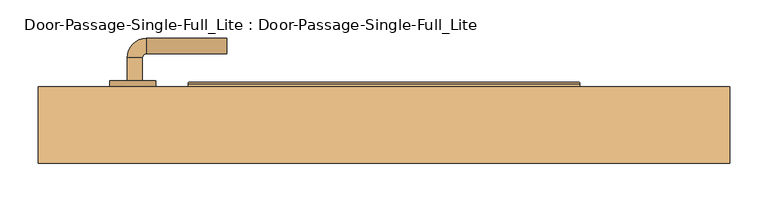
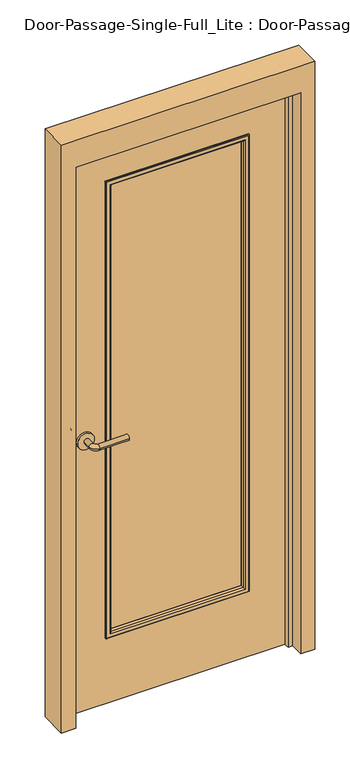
"""IFC4 building model written with IfcOpenShell, lengths in millimetres: door geometry, Door-Passage-Single-Full_Lite : Door-Passage-Single-Full_Lite."""

from ifc_helpers import new_model, si_unit, point, frame, frame_2d, origin, place, context, project, spatial, polyline, circle_curve, ellipse_curve, trimmed, segment, composite_curve, outline, extrude, faceted_brep, source, transform, mapped, element, save
from ifc_brep_helpers import plane_surface, cylinder_surface, revolved_surface, advanced_brep


def door_passage_single_full_lite_door_passage_single_full_lite_b622ab86(model_context):
    return source(origin(), model_context, "Body", "SolidModel", [
        advanced_brep(
        [(-334.990625, -12.05, 1016.0), (-314.990625, -12.05, 1016.0), (-314.990625, -42.05, 1016.0), (-334.990625, -42.05, 1016.0), (-309.990625, -47.05, 1016.0), (-309.990625, -67.05, 1016.0), (-204.990625, -67.05, 1016.0), (-204.990625, -47.05, 1016.0)],
        [
            (0, 1, circle_curve(frame((-324.990625, -12.05, 1016.0), z_axis=(0.0, 1.0, 0.0), x_axis=(1.0, 0.0, 0.0)), 10.0)),
            (1, 0, circle_curve(frame((-324.990625, -12.05, 1016.0), z_axis=(0.0, 1.0, 0.0), x_axis=(1.0, 0.0, 0.0)), 10.0)),
            (1, 2),
            (2, 3, circle_curve(frame((-324.990625, -42.05, 1016.0), z_axis=(0.0, 1.0, 0.0), x_axis=(1.0, 0.0, 0.0)), 10.0)),
            (3, 0),
            (3, 2, circle_curve(frame((-324.990625, -42.05, 1016.0), z_axis=(0.0, 1.0, 0.0), x_axis=(1.0, 0.0, 0.0)), 10.0)),
            (4, 5, circle_curve(frame((-309.990625, -57.05, 1016.0), z_axis=(-1.0, 0.0, 0.0), x_axis=(0.0, 1.0, 0.0)), 10.0)),
            (5, 3, circle_curve(frame((-309.990625, -42.05, 1016.0), z_axis=(0.0, 0.0, -1.0), x_axis=(-1.0, 0.0, 0.0)), 25.0)),
            (2, 4, circle_curve(frame((-309.990625, -42.05, 1016.0), z_axis=(0.0, 0.0, 1.0), x_axis=(-1.0, 0.0, 0.0)), 5.0)),
            (5, 4, circle_curve(frame((-309.990625, -57.05, 1016.0), z_axis=(-1.0, 0.0, 0.0), x_axis=(0.0, 1.0, 0.0)), 10.0)),
            (6, 7, circle_curve(frame((-204.990625, -57.05, 1016.0), z_axis=(1.0, 0.0, 0.0), x_axis=(0.0, 1.0, 0.0)), 10.0)),
            (7, 6, circle_curve(frame((-204.990625, -57.05, 1016.0), z_axis=(1.0, 0.0, 0.0), x_axis=(0.0, 1.0, 0.0)), 10.0)),
            (4, 7),
            (6, 5),
        ],
        [
            plane_surface(frame((-324.990625, -12.05, 1016.0), z_axis=(0.0, 1.0, 0.0), x_axis=(0.0, 0.0, 1.0))),
            cylinder_surface(frame((-324.990625, -12.05, 1016.0), z_axis=(0.0, 1.0, 0.0), x_axis=(1.0, 0.0, 0.0)), 10.0),
            revolved_surface(trimmed(ellipse_curve(frame((-324.990625, -42.05, 1016.0), z_axis=(0.0, -1.0, 0.0), x_axis=(1.0, 0.0, 0.0)), 10.0, 10.0), [point((-334.990625, -42.05, 1016.0))], [point((-314.990625, -42.05, 1016.0))], True, "CARTESIAN"), (-309.990625, -42.05, 1016.0), (0.0, 0.0, -1.0)),
            revolved_surface(trimmed(ellipse_curve(frame((-324.990625, -42.05, 1016.0), z_axis=(0.0, -1.0, 0.0), x_axis=(1.0, 0.0, 0.0)), 10.0, 10.0), [point((-314.990625, -42.05, 1016.0))], [point((-334.990625, -42.05, 1016.0))], True, "CARTESIAN"), (-309.990625, -42.05, 1016.0), (0.0, 0.0, -1.0)),
            plane_surface(frame((-204.990625, -57.05, 1016.0), z_axis=(1.0, 0.0, 0.0), x_axis=(0.0, 0.0, 1.0))),
            cylinder_surface(frame((-309.990625, -57.05, 1016.0), z_axis=(-1.0, 0.0, 0.0), x_axis=(0.0, 1.0, 0.0)), 10.0),
        ],
        [
            (0, [[1, 2]]),
            (1, [[3, 4, 5, -2]]),
            (1, [[-5, 6, -3, -1]]),
            (2, [[7, 8, -4, 9]]),
            (3, [[10, -9, -6, -8]]),
            (4, [[11, 12]]),
            (5, [[13, -11, 14, -7]]),
            (5, [[-14, -12, -13, -10]]),
        ],
    ),
        extrude(outline(composite_curve([segment(trimmed(circle_curve(frame_2d((1016.0, -327.490625)), 30.0), [point((1016.0, -357.490625))], [point((1016.0, -297.490625))], False, "CARTESIAN"), True, "CONTINUOUS"), segment(trimmed(circle_curve(frame_2d((1016.0, -327.490625)), 30.0), [point((1016.0, -297.490625))], [point((1016.0, -357.490625))], False, "CARTESIAN"), True, "CONTINUOUS")], self_intersect=False)), frame((0.0, -12.05, 0.0), z_axis=(0.0, 1.0, 0.0), x_axis=(0.0, 0.0, 1.0)), (0.0, 0.0, 1.0), 8.0),
        advanced_brep(
        [(-334.990625, 33.95, 1016.0), (-314.990625, 33.95, 1016.0), (-334.990625, 63.95, 1016.0), (-314.990625, 63.95, 1016.0), (-309.990625, 68.95, 1016.0), (-309.990625, 88.95, 1016.0), (-204.990625, 88.95, 1016.0), (-204.990625, 68.95, 1016.0)],
        [
            (0, 1, circle_curve(frame((-324.990625, 33.95, 1016.0), z_axis=(0.0, -1.0, 0.0), x_axis=(1.0, 0.0, 0.0)), 10.0)),
            (1, 0, circle_curve(frame((-324.990625, 33.95, 1016.0), z_axis=(0.0, -1.0, 0.0), x_axis=(1.0, 0.0, 0.0)), 10.0)),
            (0, 2),
            (2, 3, circle_curve(frame((-324.990625, 63.95, 1016.0), z_axis=(0.0, -1.0, 0.0), x_axis=(1.0, 0.0, 0.0)), 10.0)),
            (3, 1),
            (3, 2, circle_curve(frame((-324.990625, 63.95, 1016.0), z_axis=(0.0, -1.0, 0.0), x_axis=(1.0, 0.0, 0.0)), 10.0)),
            (4, 3, circle_curve(frame((-309.990625, 63.95, 1016.0), z_axis=(0.0, 0.0, 1.0), x_axis=(-1.0, 0.0, 0.0)), 5.0)),
            (2, 5, circle_curve(frame((-309.990625, 63.95, 1016.0), z_axis=(0.0, 0.0, -1.0), x_axis=(-1.0, 0.0, 0.0)), 25.0)),
            (5, 4, circle_curve(frame((-309.990625, 78.95, 1016.0), z_axis=(-1.0, 0.0, 0.0), x_axis=(0.0, -1.0, 0.0)), 10.0)),
            (4, 5, circle_curve(frame((-309.990625, 78.95, 1016.0), z_axis=(-1.0, 0.0, 0.0), x_axis=(0.0, -1.0, 0.0)), 10.0)),
            (6, 7, circle_curve(frame((-204.990625, 78.95, 1016.0), z_axis=(1.0, 0.0, 0.0), x_axis=(0.0, -1.0, 0.0)), 10.0)),
            (7, 6, circle_curve(frame((-204.990625, 78.95, 1016.0), z_axis=(1.0, 0.0, 0.0), x_axis=(0.0, -1.0, 0.0)), 10.0)),
            (5, 6),
            (7, 4),
        ],
        [
            plane_surface(frame((-324.990625, 33.95, 1016.0), z_axis=(0.0, -1.0, 0.0), x_axis=(0.0, 0.0, 1.0))),
            cylinder_surface(frame((-324.990625, 33.95, 1016.0), z_axis=(0.0, -1.0, 0.0), x_axis=(1.0, 0.0, 0.0)), 10.0),
            revolved_surface(trimmed(ellipse_curve(frame((-324.990625, 63.95, 1016.0), z_axis=(0.0, -1.0, 0.0), x_axis=(1.0, 0.0, 0.0)), 10.0, 10.0), [point((-334.990625, 63.95, 1016.0))], [point((-314.990625, 63.95, 1016.0))], True, "CARTESIAN"), (-309.990625, 63.95, 1016.0), (0.0, 0.0, -1.0)),
            revolved_surface(trimmed(ellipse_curve(frame((-324.990625, 63.95, 1016.0), z_axis=(0.0, -1.0, 0.0), x_axis=(1.0, 0.0, 0.0)), 10.0, 10.0), [point((-314.990625, 63.95, 1016.0))], [point((-334.990625, 63.95, 1016.0))], True, "CARTESIAN"), (-309.990625, 63.95, 1016.0), (0.0, 0.0, -1.0)),
            plane_surface(frame((-204.990625, 78.95, 1016.0), z_axis=(1.0, 0.0, 0.0), x_axis=(0.0, 0.0, 1.0))),
            cylinder_surface(frame((-309.990625, 78.95, 1016.0), z_axis=(-1.0, 0.0, 0.0), x_axis=(0.0, -1.0, 0.0)), 10.0),
        ],
        [
            (0, [[1, 2]]),
            (1, [[-1, 3, 4, 5]]),
            (1, [[-2, -5, 6, -3]]),
            (2, [[7, -4, 8, 9]]),
            (3, [[-8, -6, -7, 10]]),
            (4, [[11, 12]]),
            (5, [[-9, 13, -12, 14]]),
            (5, [[-10, -14, -11, -13]]),
        ],
    ),
        extrude(outline(composite_curve([segment(trimmed(circle_curve(frame_2d((1016.0, -327.490625)), 30.0), [point((1016.0, -357.490625))], [point((1016.0, -297.490625))], False, "CARTESIAN"), True, "CONTINUOUS"), segment(trimmed(circle_curve(frame_2d((1016.0, -327.490625)), 30.0), [point((1016.0, -297.490625))], [point((1016.0, -357.490625))], False, "CARTESIAN"), True, "CONTINUOUS")], self_intersect=False)), frame((0.0, 25.95, 0.0), z_axis=(0.0, 1.0, 0.0), x_axis=(0.0, 0.0, 1.0)), (0.0, 0.0, 1.0), 8.0),
        extrude(outline(polyline([(247.6, 7.775), (-247.6, 7.775), (-247.6, 14.125), (247.6, 14.125), (247.6, 7.775)])), frame((0.0, 0.0, 254.0), z_axis=(0.0, 0.0, 1.0), x_axis=(1.0, 0.0, 0.0)), (0.0, 0.0, 1.0), 1703.6),
        faceted_brep([(400.0, -8.8125, 0.0), (400.0, 25.95, 0.0), (450.8, 25.95, 0.0), (450.8, -74.05, 0.0), (400.0, -74.05, 0.0), (400.0, -24.8375, 0.0), (384.125, -24.8375, 0.0), (384.125, -8.8125, 0.0), (400.0, -8.8125, 2110.0), (400.0, 25.95, 2110.0), (-400.0, 25.95, 2110.0), (-400.0, 25.95, 0.0), (-450.8, 25.95, 0.0), (-450.8, 25.95, 2211.6), (450.8, 25.95, 2211.6), (450.8, -74.05, 2211.6), (-450.8, -74.05, 2211.6), (-450.8, -74.05, 0.0), (-400.0, -74.05, 0.0), (-400.0, -74.05, 2110.0), (400.0, -74.05, 2110.0), (400.0, -24.8375, 2110.0), (-400.0, -24.8375, 2110.0), (-400.0, -24.8375, 0.0), (-384.125, -24.8375, 0.0), (-384.125, -24.8375, 2094.125), (384.125, -24.8375, 2094.125), (384.125, -8.8125, 2094.125), (-384.125, -8.8125, 2094.125), (-384.125, -8.8125, 0.0), (-400.0, -8.8125, 0.0), (-400.0, -8.8125, 2110.0)], [[[0, 1, 2, 3, 4, 5, 6, 7]], [[1, 0, 8, 9]], [[2, 1, 9, 10, 11, 12, 13, 14]], [[3, 2, 14, 15]], [[4, 3, 15, 16, 17, 18, 19, 20]], [[5, 4, 20, 21]], [[6, 5, 21, 22, 23, 24, 25, 26]], [[7, 6, 26, 27]], [[0, 7, 27, 28, 29, 30, 31, 8]], [[9, 8, 31, 10]], [[20, 19, 22, 21]], [[26, 25, 28, 27]], [[12, 11, 30, 29, 24, 23, 18, 17]], [[11, 10, 31, 30]], [[13, 12, 17, 16]], [[19, 18, 23, 22]], [[25, 24, 29, 28]], [[15, 14, 13, 16]]]),
        extrude(outline(polyline([(2110.0, -400.0), (0.0, -400.0), (0.0, 400.0), (2110.0, 400.0), (2110.0, -400.0)]), holes=[polyline([(1957.6, -247.6), (1957.6, 247.6), (254.0, 247.6), (254.0, -247.6), (1957.6, -247.6)])]), frame((0.0, -4.05, 0.0), z_axis=(0.0, 1.0, 0.0), x_axis=(0.0, 0.0, 1.0)), (0.0, 0.0, 1.0), 30.0),
        advanced_brep(
        [(-247.6, 6.9, 1957.6), (-247.6, 25.95, 1957.6), (-247.6, 25.95, 254.0), (-247.6, 6.9, 254.0), (-235.6, 26.95, 1945.6), (-235.6, 6.9, 1945.6), (-235.6, 6.9, 266.0), (-235.6, 26.95, 266.0), (-240.6, 31.95, 1950.6), (-240.6, 31.95, 261.0), (-255.6, 29.95, 1965.6), (-253.6, 31.95, 1963.6), (-253.6, 31.95, 248.0), (-255.6, 29.95, 246.0), (-255.6, 25.95, 1965.6), (-255.6, 25.95, 246.0), (247.6, 25.95, 254.0), (247.6, 6.9, 254.0), (235.6, 6.9, 266.0), (235.6, 26.95, 266.0), (240.6, 31.95, 261.0), (253.6, 31.95, 248.0), (255.6, 29.95, 246.0), (255.6, 25.95, 246.0), (247.6, 25.95, 1957.6), (247.6, 6.9, 1957.6), (235.6, 6.9, 1945.6), (235.6, 26.95, 1945.6), (240.6, 31.95, 1950.6), (253.6, 31.95, 1963.6), (255.6, 29.95, 1965.6), (255.6, 25.95, 1965.6)],
        [
            (0, 1),
            (1, 2),
            (2, 3),
            (3, 0),
            (4, 5),
            (5, 6),
            (6, 7),
            (7, 4),
            (8, 4, ellipse_curve(frame((-240.6, 26.95, 1950.6), z_axis=(-0.7071067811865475, 0.0, -0.7071067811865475), x_axis=(-0.7071067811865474, 0.0, 0.7071067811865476)), 7.0710678, 5.0)),
            (7, 9, ellipse_curve(frame((-240.6, 26.95, 261.0), z_axis=(-0.7071067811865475, 0.0, 0.7071067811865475), x_axis=(0.7071067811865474, 0.0, 0.7071067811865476)), 7.0710678, 5.0)),
            (9, 8),
            (10, 11, ellipse_curve(frame((-253.6, 29.95, 1963.6), z_axis=(-0.7071067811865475, 0.0, -0.7071067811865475), x_axis=(-0.7071067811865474, 0.0, 0.7071067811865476)), 2.8284271, 2.0)),
            (11, 12),
            (12, 13, ellipse_curve(frame((-253.6, 29.95, 248.0), z_axis=(-0.7071067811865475, 0.0, 0.7071067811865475), x_axis=(0.7071067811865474, 0.0, 0.7071067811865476)), 2.8284271, 2.0)),
            (13, 10),
            (14, 10),
            (13, 15),
            (15, 14),
            (2, 16),
            (16, 17),
            (17, 3),
            (6, 18),
            (18, 19),
            (19, 7),
            (19, 20, ellipse_curve(frame((240.6, 26.95, 261.0), z_axis=(-0.7071067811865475, 0.0, -0.7071067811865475), x_axis=(-0.7071067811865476, 0.0, 0.7071067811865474)), 7.0710678, 5.0)),
            (20, 9),
            (12, 21),
            (21, 22, ellipse_curve(frame((253.6, 29.95, 248.0), z_axis=(-0.7071067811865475, 0.0, -0.7071067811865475), x_axis=(-0.7071067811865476, 0.0, 0.7071067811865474)), 2.8284271, 2.0)),
            (22, 13),
            (22, 23),
            (23, 15),
            (16, 24),
            (24, 25),
            (25, 17),
            (18, 26),
            (26, 27),
            (27, 19),
            (27, 28, ellipse_curve(frame((240.6, 26.95, 1950.6), z_axis=(0.7071067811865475, 0.0, -0.7071067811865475), x_axis=(-0.7071067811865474, 0.0, -0.7071067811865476)), 7.0710678, 5.0)),
            (28, 20),
            (21, 29),
            (29, 30, ellipse_curve(frame((253.6, 29.95, 1963.6), z_axis=(0.7071067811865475, 0.0, -0.7071067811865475), x_axis=(-0.7071067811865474, 0.0, -0.7071067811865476)), 2.8284271, 2.0)),
            (30, 22),
            (30, 31),
            (31, 23),
            (31, 14),
            (1, 24),
            (0, 25),
            (5, 26),
            (4, 27),
            (8, 28),
            (11, 29),
            (10, 30),
        ],
        [
            plane_surface(frame((-247.6, 25.95, 1957.6), z_axis=(-1.0, 0.0, 0.0), x_axis=(0.0, 0.0, -1.0))),
            plane_surface(frame((-235.6, 6.9, 1945.6), z_axis=(1.0, 0.0, 0.0), x_axis=(0.0, 0.0, -1.0))),
            cylinder_surface(frame((-240.6, 26.95, 1957.6), z_axis=(0.0, 0.0, 1.0), x_axis=(-1.0, 0.0, 0.0)), 5.0),
            cylinder_surface(frame((-253.6, 29.95, 1957.6), z_axis=(0.0, 0.0, 1.0), x_axis=(-1.0, 0.0, 0.0)), 2.0),
            plane_surface(frame((-255.6, 29.95, 1965.6), z_axis=(-1.0, 0.0, 0.0), x_axis=(0.0, 0.0, -1.0))),
            plane_surface(frame((-247.6, 25.95, 254.0), z_axis=(0.0, 0.0, -1.0), x_axis=(1.0, 0.0, 0.0))),
            plane_surface(frame((-235.6, 6.9, 266.0), z_axis=(0.0, 0.0, 1.0), x_axis=(1.0, 0.0, 0.0))),
            cylinder_surface(frame((-247.6, 26.95, 261.0), z_axis=(-1.0, 0.0, 0.0), x_axis=(0.0, 0.0, -1.0)), 5.0),
            cylinder_surface(frame((-247.6, 29.95, 248.0), z_axis=(-1.0, 0.0, 0.0), x_axis=(0.0, 0.0, -1.0)), 2.0),
            plane_surface(frame((-255.6, 29.95, 246.0), z_axis=(0.0, 0.0, -1.0), x_axis=(1.0, 0.0, 0.0))),
            plane_surface(frame((247.6, 25.95, 254.0), z_axis=(1.0, 0.0, 0.0), x_axis=(0.0, 0.0, 1.0))),
            plane_surface(frame((235.6, 6.9, 266.0), z_axis=(-1.0, 0.0, 0.0), x_axis=(0.0, 0.0, 1.0))),
            cylinder_surface(frame((240.6, 26.95, 254.0), z_axis=(0.0, 0.0, -1.0), x_axis=(1.0, 0.0, 0.0)), 5.0),
            cylinder_surface(frame((253.6, 29.95, 254.0), z_axis=(0.0, 0.0, -1.0), x_axis=(1.0, 0.0, 0.0)), 2.0),
            plane_surface(frame((255.6, 29.95, 246.0), z_axis=(1.0, 0.0, 0.0), x_axis=(0.0, 0.0, 1.0))),
            plane_surface(frame((255.6, 25.95, 1965.6), z_axis=(0.0, -1.0, 0.0), x_axis=(-1.0, 0.0, 0.0))),
            plane_surface(frame((247.6, 25.95, 1957.6), z_axis=(0.0, 0.0, 1.0), x_axis=(-1.0, 0.0, 0.0))),
            plane_surface(frame((247.6, 6.9, 1957.6), z_axis=(0.0, -1.0, 0.0), x_axis=(-1.0, 0.0, 0.0))),
            plane_surface(frame((235.6, 6.9, 1945.6), z_axis=(0.0, 0.0, -1.0), x_axis=(-1.0, 0.0, 0.0))),
            cylinder_surface(frame((247.6, 26.95, 1950.6), z_axis=(1.0, 0.0, 0.0), x_axis=(0.0, 0.0, 1.0)), 5.0),
            plane_surface(frame((240.6, 31.95, 1950.6), z_axis=(0.0, 1.0, 0.0), x_axis=(-1.0, 0.0, 0.0))),
            cylinder_surface(frame((247.6, 29.95, 1963.6), z_axis=(1.0, 0.0, 0.0), x_axis=(0.0, 0.0, 1.0)), 2.0),
            plane_surface(frame((255.6, 29.95, 1965.6), z_axis=(0.0, 0.0, 1.0), x_axis=(-1.0, 0.0, 0.0))),
        ],
        [
            (0, [[1, 2, 3, 4]]),
            (1, [[5, 6, 7, 8]]),
            (2, [[9, -8, 10, 11]]),
            (3, [[12, 13, 14, 15]]),
            (4, [[16, -15, 17, 18]]),
            (5, [[-3, 19, 20, 21]]),
            (6, [[-7, 22, 23, 24]]),
            (7, [[-10, -24, 25, 26]]),
            (8, [[-14, 27, 28, 29]]),
            (9, [[-17, -29, 30, 31]]),
            (10, [[-20, 32, 33, 34]]),
            (11, [[-23, 35, 36, 37]]),
            (12, [[-25, -37, 38, 39]]),
            (13, [[-28, 40, 41, 42]]),
            (14, [[-30, -42, 43, 44]]),
            (15, [[-31, -44, 45, -18], [46, -32, -19, -2]]),
            (16, [[-33, -46, -1, 47]]),
            (17, [[-21, -34, -47, -4], [48, -35, -22, -6]]),
            (18, [[-36, -48, -5, 49]]),
            (19, [[-38, -49, -9, 50]]),
            (20, [[51, -40, -27, -13], [-26, -39, -50, -11]]),
            (21, [[-41, -51, -12, 52]]),
            (22, [[-43, -52, -16, -45]]),
        ],
    ),
        advanced_brep(
        [(-247.6, 15.0, 254.0), (-247.6, -4.05, 254.0), (-247.6, -4.05, 1957.6), (-247.6, 15.0, 1957.6), (-235.6, -5.05, 266.0), (-235.6, 15.0, 266.0), (-235.6, 15.0, 1945.6), (-235.6, -5.05, 1945.6), (-240.6, -10.05, 261.0), (-240.6, -10.05, 1950.6), (-255.6, -8.05, 246.0), (-253.6, -10.05, 248.0), (-253.6, -10.05, 1963.6), (-255.6, -8.05, 1965.6), (-255.6, -4.05, 246.0), (-255.6, -4.05, 1965.6), (247.6, -4.05, 1957.6), (247.6, 15.0, 1957.6), (235.6, 15.0, 1945.6), (235.6, -5.05, 1945.6), (240.6, -10.05, 1950.6), (253.6, -10.05, 1963.6), (255.6, -8.05, 1965.6), (255.6, -4.05, 1965.6), (247.6, -4.05, 254.0), (247.6, 15.0, 254.0), (235.6, 15.0, 266.0), (235.6, -5.05, 266.0), (240.6, -10.05, 261.0), (253.6, -10.05, 248.0), (255.6, -8.05, 246.0), (255.6, -4.05, 246.0)],
        [
            (0, 1),
            (1, 2),
            (2, 3),
            (3, 0),
            (4, 5),
            (5, 6),
            (6, 7),
            (7, 4),
            (8, 4, ellipse_curve(frame((-240.6, -5.05, 261.0), z_axis=(-0.7071067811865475, 0.0, 0.7071067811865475), x_axis=(-0.7071067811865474, 0.0, -0.7071067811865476)), 7.0710678, 5.0)),
            (7, 9, ellipse_curve(frame((-240.6, -5.05, 1950.6), z_axis=(-0.7071067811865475, 0.0, -0.7071067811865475), x_axis=(0.7071067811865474, 0.0, -0.7071067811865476)), 7.0710678, 5.0)),
            (9, 8),
            (10, 11, ellipse_curve(frame((-253.6, -8.05, 248.0), z_axis=(-0.7071067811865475, 0.0, 0.7071067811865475), x_axis=(-0.7071067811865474, 0.0, -0.7071067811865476)), 2.8284271, 2.0)),
            (11, 12),
            (12, 13, ellipse_curve(frame((-253.6, -8.05, 1963.6), z_axis=(-0.7071067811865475, 0.0, -0.7071067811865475), x_axis=(0.7071067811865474, 0.0, -0.7071067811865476)), 2.8284271, 2.0)),
            (13, 10),
            (14, 10),
            (13, 15),
            (15, 14),
            (2, 16),
            (16, 17),
            (17, 3),
            (6, 18),
            (18, 19),
            (19, 7),
            (19, 20, ellipse_curve(frame((240.6, -5.05, 1950.6), z_axis=(-0.7071067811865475, 0.0, 0.7071067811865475), x_axis=(-0.7071067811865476, 0.0, -0.7071067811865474)), 7.0710678, 5.0)),
            (20, 9),
            (12, 21),
            (21, 22, ellipse_curve(frame((253.6, -8.05, 1963.6), z_axis=(-0.7071067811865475, 0.0, 0.7071067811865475), x_axis=(-0.7071067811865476, 0.0, -0.7071067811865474)), 2.8284271, 2.0)),
            (22, 13),
            (22, 23),
            (23, 15),
            (16, 24),
            (24, 25),
            (25, 17),
            (18, 26),
            (26, 27),
            (27, 19),
            (27, 28, ellipse_curve(frame((240.6, -5.05, 261.0), z_axis=(0.7071067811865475, 0.0, 0.7071067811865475), x_axis=(-0.7071067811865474, 0.0, 0.7071067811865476)), 7.0710678, 5.0)),
            (28, 20),
            (21, 29),
            (29, 30, ellipse_curve(frame((253.6, -8.05, 248.0), z_axis=(0.7071067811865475, 0.0, 0.7071067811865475), x_axis=(-0.7071067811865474, 0.0, 0.7071067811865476)), 2.8284271, 2.0)),
            (30, 22),
            (30, 31),
            (31, 23),
            (31, 14),
            (1, 24),
            (0, 25),
            (5, 26),
            (4, 27),
            (8, 28),
            (11, 29),
            (10, 30),
        ],
        [
            plane_surface(frame((-247.6, -4.05, 254.0), z_axis=(-1.0, 0.0, 0.0), x_axis=(0.0, 0.0, 1.0))),
            plane_surface(frame((-235.6, 15.0, 266.0), z_axis=(1.0, 0.0, 0.0), x_axis=(0.0, 0.0, 1.0))),
            cylinder_surface(frame((-240.6, -5.05, 254.0), z_axis=(0.0, 0.0, -1.0), x_axis=(-1.0, 0.0, 0.0)), 5.0),
            cylinder_surface(frame((-253.6, -8.05, 254.0), z_axis=(0.0, 0.0, -1.0), x_axis=(-1.0, 0.0, 0.0)), 2.0),
            plane_surface(frame((-255.6, -8.05, 246.0), z_axis=(-1.0, 0.0, 0.0), x_axis=(0.0, 0.0, 1.0))),
            plane_surface(frame((-247.6, -4.05, 1957.6), z_axis=(0.0, 0.0, 1.0), x_axis=(1.0, 0.0, 0.0))),
            plane_surface(frame((-235.6, 15.0, 1945.6), z_axis=(0.0, 0.0, -1.0), x_axis=(1.0, 0.0, 0.0))),
            cylinder_surface(frame((-247.6, -5.05, 1950.6), z_axis=(-1.0, 0.0, 0.0), x_axis=(0.0, 0.0, 1.0)), 5.0),
            cylinder_surface(frame((-247.6, -8.05, 1963.6), z_axis=(-1.0, 0.0, 0.0), x_axis=(0.0, 0.0, 1.0)), 2.0),
            plane_surface(frame((-255.6, -8.05, 1965.6), z_axis=(0.0, 0.0, 1.0), x_axis=(1.0, 0.0, 0.0))),
            plane_surface(frame((247.6, -4.05, 1957.6), z_axis=(1.0, 0.0, 0.0), x_axis=(0.0, 0.0, -1.0))),
            plane_surface(frame((235.6, 15.0, 1945.6), z_axis=(-1.0, 0.0, 0.0), x_axis=(0.0, 0.0, -1.0))),
            cylinder_surface(frame((240.6, -5.05, 1957.6), z_axis=(0.0, 0.0, 1.0), x_axis=(1.0, 0.0, 0.0)), 5.0),
            cylinder_surface(frame((253.6, -8.05, 1957.6), z_axis=(0.0, 0.0, 1.0), x_axis=(1.0, 0.0, 0.0)), 2.0),
            plane_surface(frame((255.6, -8.05, 1965.6), z_axis=(1.0, 0.0, 0.0), x_axis=(0.0, 0.0, -1.0))),
            plane_surface(frame((255.6, -4.05, 246.0), z_axis=(0.0, 1.0, 0.0), x_axis=(-1.0, 0.0, 0.0))),
            plane_surface(frame((247.6, -4.05, 254.0), z_axis=(0.0, 0.0, -1.0), x_axis=(-1.0, 0.0, 0.0))),
            plane_surface(frame((247.6, 15.0, 254.0), z_axis=(0.0, 1.0, 0.0), x_axis=(-1.0, 0.0, 0.0))),
            plane_surface(frame((235.6, 15.0, 266.0), z_axis=(0.0, 0.0, 1.0), x_axis=(-1.0, 0.0, 0.0))),
            cylinder_surface(frame((247.6, -5.05, 261.0), z_axis=(1.0, 0.0, 0.0), x_axis=(0.0, 0.0, -1.0)), 5.0),
            plane_surface(frame((240.6, -10.05, 261.0), z_axis=(0.0, -1.0, 0.0), x_axis=(-1.0, 0.0, 0.0))),
            cylinder_surface(frame((247.6, -8.05, 248.0), z_axis=(1.0, 0.0, 0.0), x_axis=(0.0, 0.0, -1.0)), 2.0),
            plane_surface(frame((255.6, -8.05, 246.0), z_axis=(0.0, 0.0, -1.0), x_axis=(-1.0, 0.0, 0.0))),
        ],
        [
            (0, [[1, 2, 3, 4]]),
            (1, [[5, 6, 7, 8]]),
            (2, [[9, -8, 10, 11]]),
            (3, [[12, 13, 14, 15]]),
            (4, [[16, -15, 17, 18]]),
            (5, [[-3, 19, 20, 21]]),
            (6, [[-7, 22, 23, 24]]),
            (7, [[-10, -24, 25, 26]]),
            (8, [[-14, 27, 28, 29]]),
            (9, [[-17, -29, 30, 31]]),
            (10, [[-20, 32, 33, 34]]),
            (11, [[-23, 35, 36, 37]]),
            (12, [[-25, -37, 38, 39]]),
            (13, [[-28, 40, 41, 42]]),
            (14, [[-30, -42, 43, 44]]),
            (15, [[-31, -44, 45, -18], [46, -32, -19, -2]]),
            (16, [[-33, -46, -1, 47]]),
            (17, [[-21, -34, -47, -4], [48, -35, -22, -6]]),
            (18, [[-36, -48, -5, 49]]),
            (19, [[-38, -49, -9, 50]]),
            (20, [[51, -40, -27, -13], [-26, -39, -50, -11]]),
            (21, [[-41, -51, -12, 52]]),
            (22, [[-43, -52, -16, -45]]),
        ],
    ),
    ])


if __name__ == "__main__":
    model = new_model("IFC4")
    model_context = context("Model", 3, world=origin())
    ifc_project = project(units=[si_unit("LENGTHUNIT", "METRE", prefix="MILLI")], contexts=[model_context])
    site = spatial("IfcSite", under=ifc_project)
    building = spatial("IfcBuilding", under=site)
    placement = place(None, origin())
    door_passage_single_full_lite_door_passage_single_full_lite_shape = door_passage_single_full_lite_door_passage_single_full_lite_b622ab86(model_context)
    element("IfcDoor", 1, ObjectType="Door-Passage-Single-Full_Lite : Door-Passage-Single-Full_Lite", at=placement, inside=building, context=model_context, shape_type="MappedRepresentation", body=[
        mapped(door_passage_single_full_lite_door_passage_single_full_lite_shape, transform((0.0, 0.0, 0.0), x_axis=(1.0, 0.0, 0.0), y_axis=(0.0, 1.0, 0.0), z_axis=(0.0, 0.0, 1.0))),
    ])
    save(model, "model.ifc")
